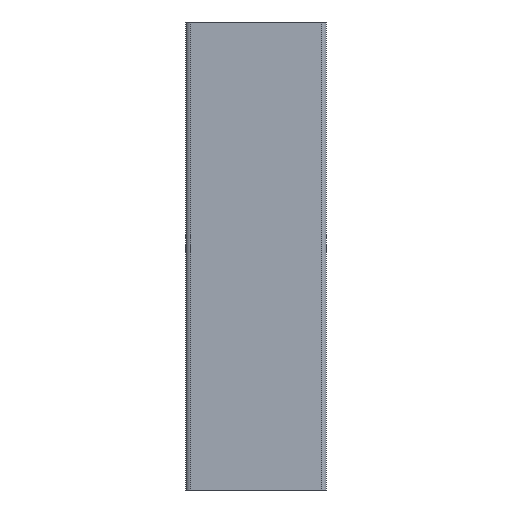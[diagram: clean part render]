
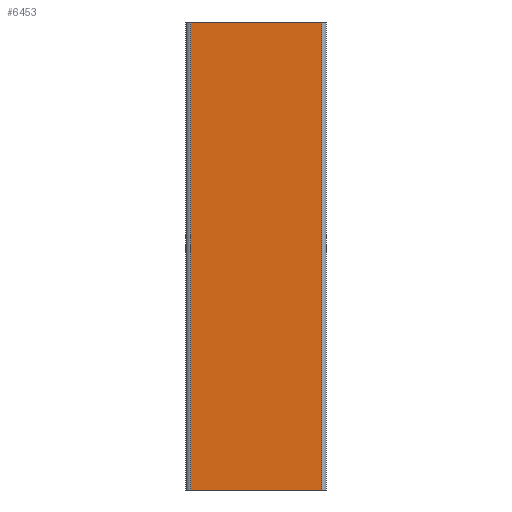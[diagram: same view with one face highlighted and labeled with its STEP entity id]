
A CAD part, left-side view. The second image highlights one B-rep face of the part: STEP entity #6453.
In plain terms, the highlighted planar face has unit normal (-1, 0, 0).
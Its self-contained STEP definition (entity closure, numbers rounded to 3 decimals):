
#41 = ORIENTED_EDGE ( 'NONE', *, *, #5583, .F. ) ;
#59 = LINE ( 'NONE', #60, #61 ) ;
#60 = CARTESIAN_POINT ( 'NONE',  ( 86.805, 123.707, 50. ) ) ;
#61 = VECTOR ( 'NONE', #70, 1000. ) ;
#70 = DIRECTION ( 'NONE',  ( 0., 0., -1. ) ) ;
#466 = CARTESIAN_POINT ( 'NONE',  ( 86.805, 123.707, 50. ) ) ;
#581 = CARTESIAN_POINT ( 'NONE',  ( 86.805, 137.657, 50. ) ) ;
#625 = EDGE_CURVE ( 'NONE', #6100, #7034, #6520, .T. ) ;
#686 = LINE ( 'NONE', #687, #688 ) ;
#687 = CARTESIAN_POINT ( 'NONE',  ( 86.805, 137.657, 50. ) ) ;
#688 = VECTOR ( 'NONE', #689, 1000. ) ;
#689 = DIRECTION ( 'NONE',  ( 0., 0., -1. ) ) ;
#1111 = CARTESIAN_POINT ( 'NONE',  ( 86.805, 137.657, 0. ) ) ;
#1386 = FACE_OUTER_BOUND ( 'NONE', #3914, .T. ) ;
#1387 = PLANE ( 'NONE',  #1388 ) ;
#1388 = AXIS2_PLACEMENT_3D ( 'NONE', #1389, #1390, #1391 ) ;
#1389 = CARTESIAN_POINT ( 'NONE',  ( 86.805, 123.707, 50. ) ) ;
#1390 = DIRECTION ( 'NONE',  ( 1., 0., 0. ) ) ;
#1391 = DIRECTION ( 'NONE',  ( 0., 0., -1. ) ) ;
#1702 = CARTESIAN_POINT ( 'NONE',  ( 86.805, 123.707, 0. ) ) ;
#3914 = EDGE_LOOP ( 'NONE', ( #5393, #41, #11840, #10815 ) ) ;
#5393 = ORIENTED_EDGE ( 'NONE', *, *, #625, .T. ) ;
#5583 = EDGE_CURVE ( 'NONE', #5785, #7034, #59, .T. ) ;
#5785 = VERTEX_POINT ( 'NONE', #466 ) ;
#5844 = VERTEX_POINT ( 'NONE', #581 ) ;
#5896 = EDGE_CURVE ( 'NONE', #5844, #6100, #686, .T. ) ;
#6100 = VERTEX_POINT ( 'NONE', #1111 ) ;
#6453 = ADVANCED_FACE ( 'NONE', ( #1386 ), #1387, .F. ) ;
#6520 = LINE ( 'NONE', #6521, #6522 ) ;
#6521 = CARTESIAN_POINT ( 'NONE',  ( 86.805, 123.707, 0. ) ) ;
#6522 = VECTOR ( 'NONE', #6523, 1000. ) ;
#6523 = DIRECTION ( 'NONE',  ( 0., -1., 0. ) ) ;
#7034 = VERTEX_POINT ( 'NONE', #1702 ) ;
#10781 = LINE ( 'NONE', #10782, #10783 ) ;
#10782 = CARTESIAN_POINT ( 'NONE',  ( 86.805, 123.707, 50. ) ) ;
#10783 = VECTOR ( 'NONE', #10784, 1000. ) ;
#10784 = DIRECTION ( 'NONE',  ( 0., -1., 0. ) ) ;
#10815 = ORIENTED_EDGE ( 'NONE', *, *, #5896, .T. ) ;
#11416 = EDGE_CURVE ( 'NONE', #5844, #5785, #10781, .T. ) ;
#11840 = ORIENTED_EDGE ( 'NONE', *, *, #11416, .F. ) ;
